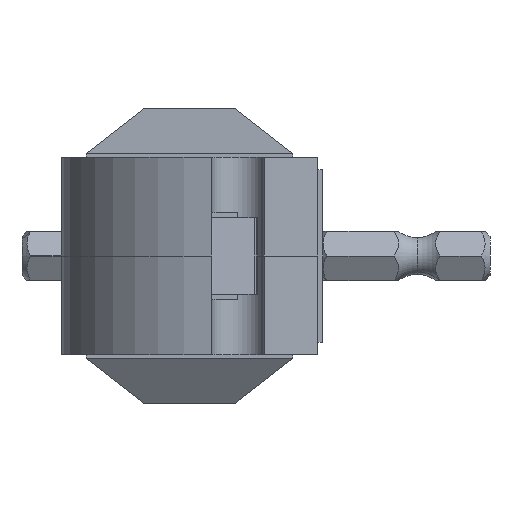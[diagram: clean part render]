
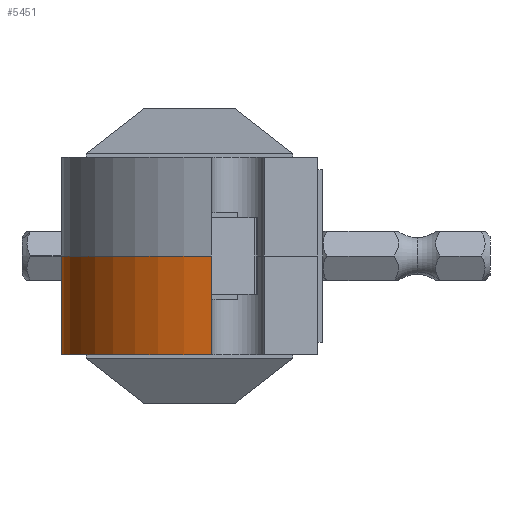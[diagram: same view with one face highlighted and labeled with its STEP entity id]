
A CAD part, left-side view. The second image highlights one B-rep face of the part: STEP entity #5451.
In plain terms, the highlighted cylindrical face has radius 23.114 mm (diameter 46.228 mm), a partial arc.
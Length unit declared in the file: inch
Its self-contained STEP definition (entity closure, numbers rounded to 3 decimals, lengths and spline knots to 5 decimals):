
#320 = VECTOR ( 'NONE', #3195, 39.37008 ) ;
#2006 = VECTOR ( 'NONE', #14720, 39.37008 ) ;
#2567 = CARTESIAN_POINT ( 'NONE',  ( -0.42, 0.54, 0.5 ) ) ;
#2622 = CARTESIAN_POINT ( 'NONE',  ( 0.47755, 0.39, 0. ) ) ;
#3074 = EDGE_CURVE ( 'NONE', #11960, #15649, #3854, .T. ) ;
#3195 = DIRECTION ( 'NONE',  ( 0., 0., -1. ) ) ;
#3854 = LINE ( 'NONE', #15350, #320 ) ;
#3951 = CARTESIAN_POINT ( 'NONE',  ( -0.42, 0.54, 0.5 ) ) ;
#4165 = DIRECTION ( 'NONE',  ( 1., 0., 0. ) ) ;
#4544 = CARTESIAN_POINT ( 'NONE',  ( 0.47755, 0.39, 0.5 ) ) ;
#5282 = VERTEX_POINT ( 'NONE', #3951 ) ;
#5451 = ADVANCED_FACE ( 'NONE', ( #8025 ), #15157, .T. ) ;
#5717 = DIRECTION ( 'NONE',  ( -1., 0., 0. ) ) ;
#5730 = ORIENTED_EDGE ( 'NONE', *, *, #6896, .F. ) ;
#6017 = LINE ( 'NONE', #2567, #2006 ) ;
#6033 = CARTESIAN_POINT ( 'NONE',  ( -0.42, 0.54, 0. ) ) ;
#6056 = DIRECTION ( 'NONE',  ( 1., 0., 0. ) ) ;
#6826 = CARTESIAN_POINT ( 'NONE',  ( 0.47755, 1.3, 0.5 ) ) ;
#6896 = EDGE_CURVE ( 'NONE', #11960, #5282, #12528, .T. ) ;
#7266 = DIRECTION ( 'NONE',  ( 0., 0., -1. ) ) ;
#7555 = CIRCLE ( 'NONE', #16807, 0.91 ) ;
#7668 = VERTEX_POINT ( 'NONE', #6033 ) ;
#8025 = FACE_OUTER_BOUND ( 'NONE', #10274, .T. ) ;
#9318 = EDGE_CURVE ( 'NONE', #5282, #7668, #6017, .T. ) ;
#10256 = ORIENTED_EDGE ( 'NONE', *, *, #9318, .F. ) ;
#10274 = EDGE_LOOP ( 'NONE', ( #14774, #10256, #5730, #17383 ) ) ;
#11960 = VERTEX_POINT ( 'NONE', #6826 ) ;
#12528 = CIRCLE ( 'NONE', #14925, 0.91 ) ;
#13263 = DIRECTION ( 'NONE',  ( 0., 0., 1. ) ) ;
#13464 = CARTESIAN_POINT ( 'NONE',  ( 0.47755, 1.3, 0. ) ) ;
#14720 = DIRECTION ( 'NONE',  ( 0., 0., -1. ) ) ;
#14774 = ORIENTED_EDGE ( 'NONE', *, *, #15556, .T. ) ;
#14925 = AXIS2_PLACEMENT_3D ( 'NONE', #4544, #15168, #6056 ) ;
#15157 = CYLINDRICAL_SURFACE ( 'NONE', #19478, 0.91 ) ;
#15168 = DIRECTION ( 'NONE',  ( 0., 0., 1. ) ) ;
#15350 = CARTESIAN_POINT ( 'NONE',  ( 0.47755, 1.3, 0.5 ) ) ;
#15556 = EDGE_CURVE ( 'NONE', #15649, #7668, #7555, .T. ) ;
#15649 = VERTEX_POINT ( 'NONE', #13464 ) ;
#16373 = CARTESIAN_POINT ( 'NONE',  ( 0.47755, 0.39, 0.5 ) ) ;
#16807 = AXIS2_PLACEMENT_3D ( 'NONE', #2622, #13263, #4165 ) ;
#17383 = ORIENTED_EDGE ( 'NONE', *, *, #3074, .T. ) ;
#19478 = AXIS2_PLACEMENT_3D ( 'NONE', #16373, #7266, #5717 ) ;
